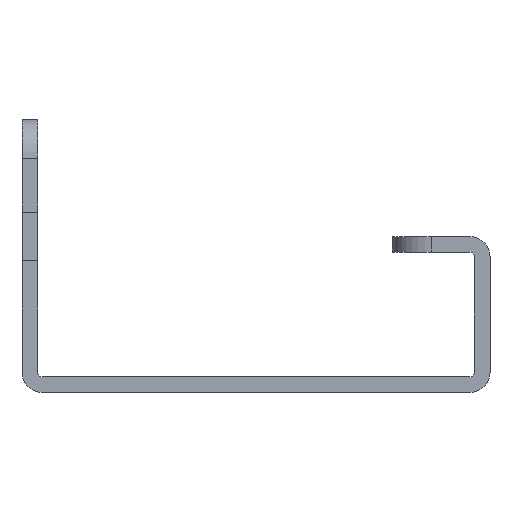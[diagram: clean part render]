
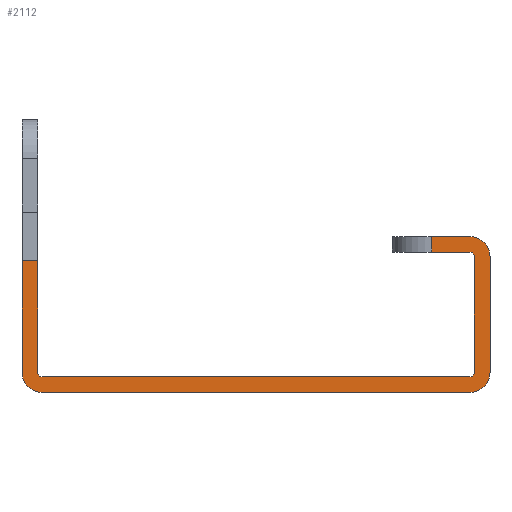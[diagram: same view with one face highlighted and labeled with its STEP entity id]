
A CAD part, front view. The second image highlights one B-rep face of the part: STEP entity #2112.
In plain terms, the highlighted planar face has unit normal (0, -1, 0).
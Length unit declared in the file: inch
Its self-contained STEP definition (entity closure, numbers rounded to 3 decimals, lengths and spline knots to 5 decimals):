
#252=CARTESIAN_POINT('',(-0.46305,-0.73546,0.844));
#253=VERTEX_POINT('',#252);
#261=CARTESIAN_POINT('',(-0.56305,-0.73546,0.844));
#262=VERTEX_POINT('',#261);
#269=CARTESIAN_POINT('',(-0.46305,-0.73546,0.844));
#270=DIRECTION('',(-1.0,0.0,0.0));
#271=VECTOR('',#270,0.1);
#272=LINE('',#269,#271);
#273=EDGE_CURVE('',#253,#262,#272,.T.);
#353=CARTESIAN_POINT('',(-0.46305,-0.73546,0.13));
#354=VERTEX_POINT('',#353);
#355=CARTESIAN_POINT('',(-0.46305,-0.73546,0.13));
#356=DIRECTION('',(0.0,0.0,1.0));
#357=VECTOR('',#356,0.714);
#358=LINE('',#355,#357);
#359=EDGE_CURVE('',#354,#253,#358,.T.);
#1987=CARTESIAN_POINT('',(1.81195,-0.73546,1.0));
#1988=DIRECTION('',(0.0,-1.0,0.0));
#1989=DIRECTION('',(0.0,0.0,-1.0));
#1990=AXIS2_PLACEMENT_3D('',#1987,#1988,#1989);
#1991=PLANE('',#1990);
#1992=ORIENTED_EDGE('',*,*,#273,.T.);
#1993=CARTESIAN_POINT('',(-0.56305,-0.73546,0.13));
#1994=VERTEX_POINT('',#1993);
#1995=CARTESIAN_POINT('',(-0.56305,-0.73546,0.13));
#1996=DIRECTION('',(0.0,0.0,1.0));
#1997=VECTOR('',#1996,0.714);
#1998=LINE('',#1995,#1997);
#1999=EDGE_CURVE('',#1994,#262,#1998,.T.);
#2000=ORIENTED_EDGE('',*,*,#1999,.F.);
#2001=CARTESIAN_POINT('',(-0.43305,-0.73546,0.0));
#2002=VERTEX_POINT('',#2001);
#2003=CARTESIAN_POINT('',(-0.43305,-0.73546,0.13));
#2004=DIRECTION('',(0.0,1.0,0.0));
#2005=DIRECTION('',(0.0,0.0,-1.0));
#2006=AXIS2_PLACEMENT_3D('',#2003,#2004,#2005);
#2007=CIRCLE('',#2006,0.13);
#2008=EDGE_CURVE('',#2002,#1994,#2007,.T.);
#2009=ORIENTED_EDGE('',*,*,#2008,.F.);
#2010=CARTESIAN_POINT('',(2.30695,-0.73546,0.0));
#2011=VERTEX_POINT('',#2010);
#2012=CARTESIAN_POINT('',(-0.43305,-0.73546,0.0));
#2013=DIRECTION('',(1.0,0.0,0.0));
#2014=VECTOR('',#2013,2.74);
#2015=LINE('',#2012,#2014);
#2016=EDGE_CURVE('',#2002,#2011,#2015,.T.);
#2017=ORIENTED_EDGE('',*,*,#2016,.T.);
#2018=CARTESIAN_POINT('',(2.43695,-0.73546,0.13));
#2019=VERTEX_POINT('',#2018);
#2020=CARTESIAN_POINT('',(2.30695,-0.73546,0.13));
#2021=DIRECTION('',(0.0,-1.0,0.0));
#2022=DIRECTION('',(0.0,0.0,-1.0));
#2023=AXIS2_PLACEMENT_3D('',#2020,#2021,#2022);
#2024=CIRCLE('',#2023,0.13);
#2025=EDGE_CURVE('',#2011,#2019,#2024,.T.);
#2026=ORIENTED_EDGE('',*,*,#2025,.T.);
#2027=CARTESIAN_POINT('',(2.43695,-0.73546,0.87));
#2028=VERTEX_POINT('',#2027);
#2029=CARTESIAN_POINT('',(2.43695,-0.73546,0.87));
#2030=DIRECTION('',(0.0,0.0,-1.0));
#2031=VECTOR('',#2030,0.74);
#2032=LINE('',#2029,#2031);
#2033=EDGE_CURVE('',#2028,#2019,#2032,.T.);
#2034=ORIENTED_EDGE('',*,*,#2033,.F.);
#2035=CARTESIAN_POINT('',(2.30695,-0.73546,1.));
#2036=VERTEX_POINT('',#2035);
#2037=CARTESIAN_POINT('',(2.30695,-0.73546,0.87));
#2038=DIRECTION('',(0.0,-1.0,0.0));
#2039=DIRECTION('',(1.0,0.0,0.0));
#2040=AXIS2_PLACEMENT_3D('',#2037,#2038,#2039);
#2041=CIRCLE('',#2040,0.13);
#2042=EDGE_CURVE('',#2028,#2036,#2041,.T.);
#2043=ORIENTED_EDGE('',*,*,#2042,.T.);
#2044=CARTESIAN_POINT('',(2.06195,-0.73546,1.0));
#2045=VERTEX_POINT('',#2044);
#2046=CARTESIAN_POINT('',(2.06195,-0.73546,1.0));
#2047=DIRECTION('',(1.0,0.0,0.0));
#2048=VECTOR('',#2047,0.245);
#2049=LINE('',#2046,#2048);
#2050=EDGE_CURVE('',#2045,#2036,#2049,.T.);
#2051=ORIENTED_EDGE('',*,*,#2050,.F.);
#2052=CARTESIAN_POINT('',(2.06195,-0.73546,0.9));
#2053=VERTEX_POINT('',#2052);
#2054=CARTESIAN_POINT('',(2.06195,-0.73546,0.9));
#2055=DIRECTION('',(0.0,0.0,1.0));
#2056=VECTOR('',#2055,0.1);
#2057=LINE('',#2054,#2056);
#2058=EDGE_CURVE('',#2053,#2045,#2057,.T.);
#2059=ORIENTED_EDGE('',*,*,#2058,.F.);
#2060=CARTESIAN_POINT('',(2.30695,-0.73546,0.9));
#2061=VERTEX_POINT('',#2060);
#2062=CARTESIAN_POINT('',(2.06195,-0.73546,0.9));
#2063=DIRECTION('',(1.0,0.0,0.0));
#2064=VECTOR('',#2063,0.245);
#2065=LINE('',#2062,#2064);
#2066=EDGE_CURVE('',#2053,#2061,#2065,.T.);
#2067=ORIENTED_EDGE('',*,*,#2066,.T.);
#2068=CARTESIAN_POINT('',(2.33695,-0.73546,0.87));
#2069=VERTEX_POINT('',#2068);
#2070=CARTESIAN_POINT('',(2.30695,-0.73546,0.87));
#2071=DIRECTION('',(0.0,-1.0,0.0));
#2072=DIRECTION('',(1.0,0.0,0.0));
#2073=AXIS2_PLACEMENT_3D('',#2070,#2071,#2072);
#2074=CIRCLE('',#2073,0.03);
#2075=EDGE_CURVE('',#2069,#2061,#2074,.T.);
#2076=ORIENTED_EDGE('',*,*,#2075,.F.);
#2077=CARTESIAN_POINT('',(2.33695,-0.73546,0.13));
#2078=VERTEX_POINT('',#2077);
#2079=CARTESIAN_POINT('',(2.33695,-0.73546,0.87));
#2080=DIRECTION('',(0.0,0.0,-1.0));
#2081=VECTOR('',#2080,0.74);
#2082=LINE('',#2079,#2081);
#2083=EDGE_CURVE('',#2069,#2078,#2082,.T.);
#2084=ORIENTED_EDGE('',*,*,#2083,.T.);
#2085=CARTESIAN_POINT('',(2.30695,-0.73546,0.1));
#2086=VERTEX_POINT('',#2085);
#2087=CARTESIAN_POINT('',(2.30695,-0.73546,0.13));
#2088=DIRECTION('',(0.0,-1.0,0.0));
#2089=DIRECTION('',(0.0,0.0,-1.0));
#2090=AXIS2_PLACEMENT_3D('',#2087,#2088,#2089);
#2091=CIRCLE('',#2090,0.03);
#2092=EDGE_CURVE('',#2086,#2078,#2091,.T.);
#2093=ORIENTED_EDGE('',*,*,#2092,.F.);
#2094=CARTESIAN_POINT('',(-0.43305,-0.73546,0.1));
#2095=VERTEX_POINT('',#2094);
#2096=CARTESIAN_POINT('',(2.30695,-0.73546,0.1));
#2097=DIRECTION('',(-1.0,0.0,0.0));
#2098=VECTOR('',#2097,2.74);
#2099=LINE('',#2096,#2098);
#2100=EDGE_CURVE('',#2086,#2095,#2099,.T.);
#2101=ORIENTED_EDGE('',*,*,#2100,.T.);
#2102=CARTESIAN_POINT('',(-0.43305,-0.73546,0.13));
#2103=DIRECTION('',(0.0,1.0,0.0));
#2104=DIRECTION('',(0.0,0.0,-1.0));
#2105=AXIS2_PLACEMENT_3D('',#2102,#2103,#2104);
#2106=CIRCLE('',#2105,0.03);
#2107=EDGE_CURVE('',#2095,#354,#2106,.T.);
#2108=ORIENTED_EDGE('',*,*,#2107,.T.);
#2109=ORIENTED_EDGE('',*,*,#359,.T.);
#2110=EDGE_LOOP('',(#1992,#2000,#2009,#2017,#2026,#2034,#2043,#2051,#2059,#2067,#2076,#2084,#2093,#2101,#2108,#2109));
#2111=FACE_OUTER_BOUND('',#2110,.T.);
#2112=ADVANCED_FACE('',(#2111),#1991,.T.);
